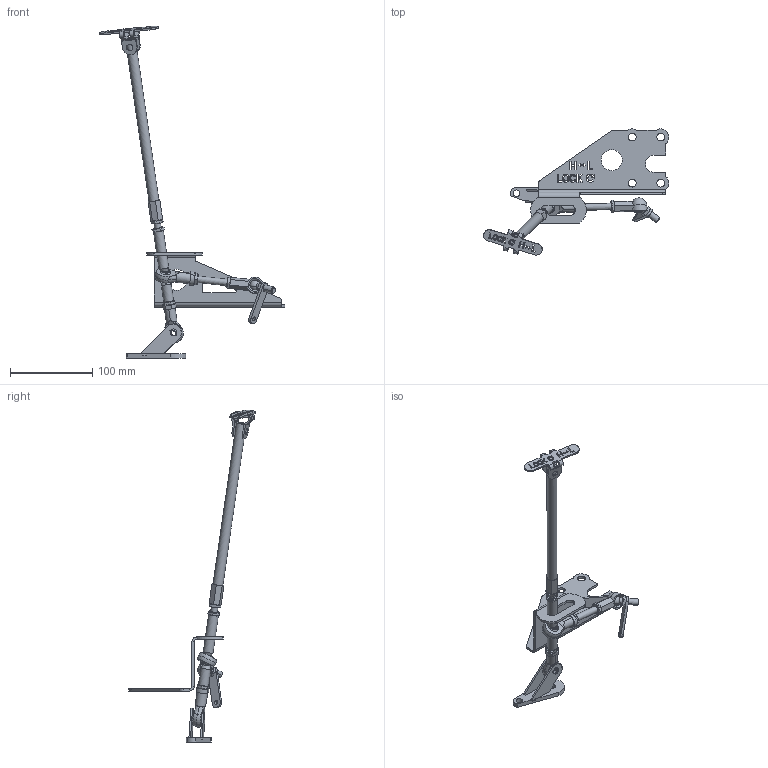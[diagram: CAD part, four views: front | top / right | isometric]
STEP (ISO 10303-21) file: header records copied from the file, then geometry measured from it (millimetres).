
FILE_DESCRIPTION(/* description */ ('Hi_lo_difflock for LT230R transfer box'),/* implementation_level */ '2;1');
FILE_NAME(/* name */ 'TRG_1022.stp',/* time_stamp */ '2026-05-05T11:17:46+01:00',/* author */ ('thebe'),/* organization */ (''),/* preprocessor_version */ 'ST-DEVELOPER v20',/* originating_system */ 'Autodesk Inventor 2024',/* authorisation */ '');
FILE_SCHEMA (('AUTOMOTIVE_DESIGN { 1 0 10303 214 3 1 1 }'));
Length unit declared in the file: millimetre
Products named in the file (18): TRG_1022 ; TR_1115; TR_1116; threaded 8mm rod; TR_1124; TR_1207; TR_1119a; WGRM-08-LC-MS; 15264_02; 15264_01; PP_1033; TR_1119b; ISO 4035 - M8; WN5_FR_1064; TRA_1011; TR_1228; TR_1229; TR_1230
Assembly tree (23 placements, depth 3):
  TRG_1022 
    TR_1115
    TR_1116
    threaded 8mm rod
    TR_1124
    TR_1207
    ISO 4035 - M8  x5
    TR_1119a
    WGRM-08-LC-MS
      15264_02
      15264_01
    PP_1033  x2
    TR_1119b
    WN5_FR_1064  x2
    TRA_1011
      TR_1228
      TR_1229
      TR_1230
Bounding box: 225.88 x 154.08 x 403.62 mm (x, y, z)
Volume: 110132.7 mm3; surface area: 85102.1 mm2
Topology: 21 solids, 21 shells, 588 faces, 1502 edges, 965 vertices
Faces by surface type: plane 348, cylinder 174, cone 48, sphere 18
Full cylindrical faces by diameter (mm): 5 x1, 6.647 x5, 8 x9, 8.01 x2, 8.3 x2, 9.5 x4, 12 x3, 25.5 x2
Entity records: 15966 total; most frequent: CARTESIAN_POINT 2718, DIRECTION 2684, ORIENTED_EDGE 2544, EDGE_CURVE 1272, AXIS2_PLACEMENT_3D 905, LINE 874, VECTOR 874, VERTEX_POINT 817
